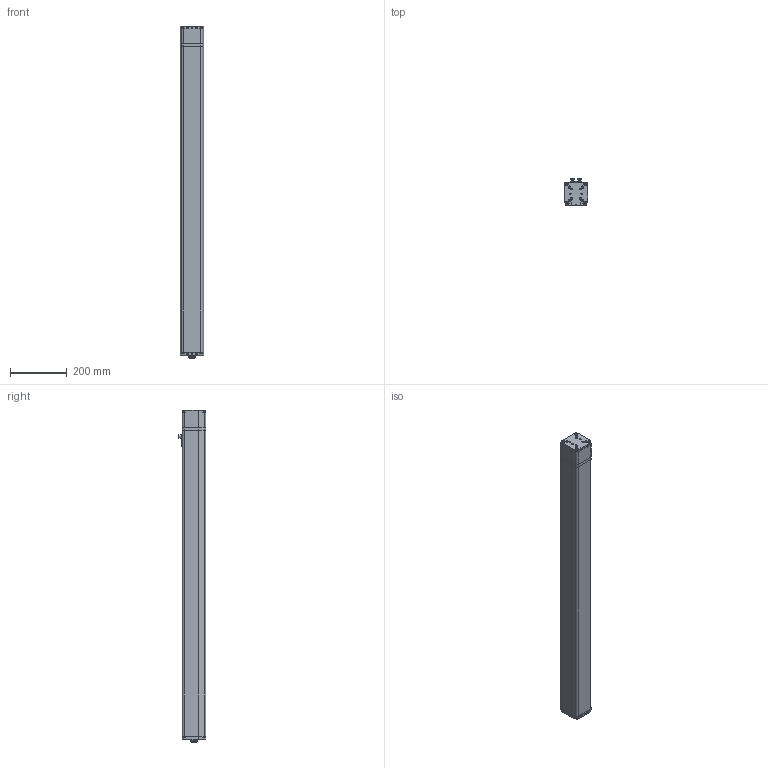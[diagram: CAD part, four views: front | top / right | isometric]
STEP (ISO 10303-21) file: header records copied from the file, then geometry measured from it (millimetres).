
FILE_DESCRIPTION (( 'STEP AP203' ), '1' );
FILE_NAME ('CTC-080-K__-____-_.step', '2023-09-29T10:02:26', ( '' ), ( '' ), 'SwSTEP 2.0', 'SolidWorks 2020', '' );
FILE_SCHEMA (( 'CONFIG_CONTROL_DESIGN' ));
Length unit declared in the file: millimetre
Products named in the file (4): CTC-080_Aufsatz-I_M10; CTC-080-K__-____-_; CTC-080_housing_Hub_1000; CTC-080_Schubrohr_Hub 1000
Assembly tree (3 placements, depth 2):
  CTC-080-K__-____-_
    CTC-080_housing_Hub_1000
    CTC-080_Schubrohr_Hub 1000
    CTC-080_Aufsatz-I_M10
Bounding box: 82 x 96.3 x 1172 mm (x, y, z)
Volume: 6589060.4 mm3; surface area: 783514.1 mm2
Topology: 30 solids, 30 shells, 794 faces, 1773 edges, 1092 vertices
Faces by surface type: cylinder 305, plane 297, cone 116, torus 68, sphere 8
Entity records: 22301 total; most frequent: DIRECTION 4133, CARTESIAN_POINT 3791, ORIENTED_EDGE 3478, EDGE_CURVE 1739, AXIS2_PLACEMENT_3D 1630, VERTEX_POINT 1092, EDGE_LOOP 889, LINE 873
